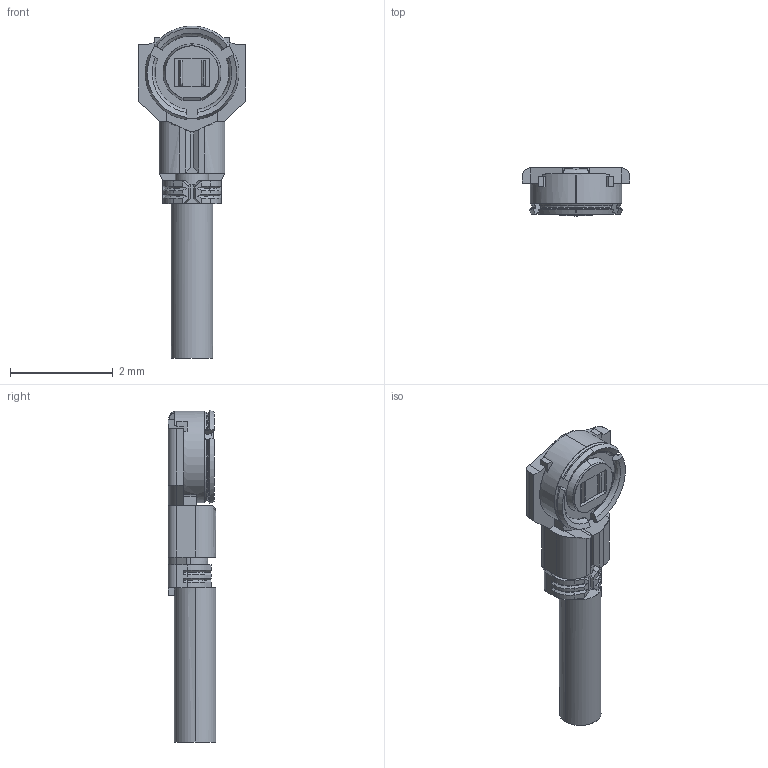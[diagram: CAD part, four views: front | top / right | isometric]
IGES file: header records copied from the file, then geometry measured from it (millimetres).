
Start section: SolidWorks IGES file using analytic representation for surfaces
Global section: file name: C:\3dwork\imaji\00.Web model check\00. New 3D\MHF 4\20448-001R-081C PLUG IGES R10 ALL.IGS; native system: SolidWorks 2017; preprocessor: SolidWorks 2017; author: ipxcad-013; date: 180425.114443; units: millimetre
Bounding box: 2.1 x 0.93 x 6.46 mm (x, y, z)
Surface area: 29.8 mm2 (no closed solid volume)
Topology: 0 solids, 0 shells, 230 faces, 1455 edges, 1455 vertices
Faces by surface type: bspline 173, revolution 57
